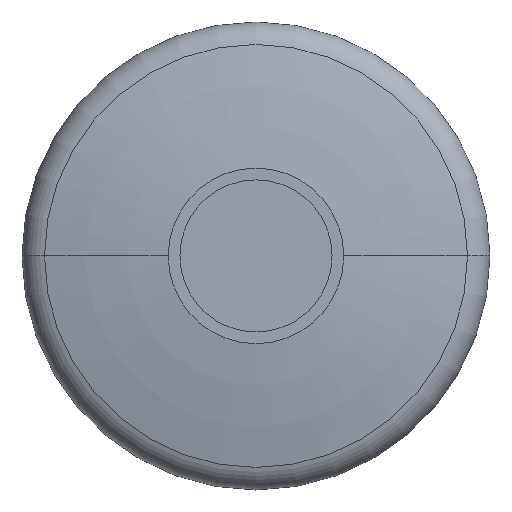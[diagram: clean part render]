
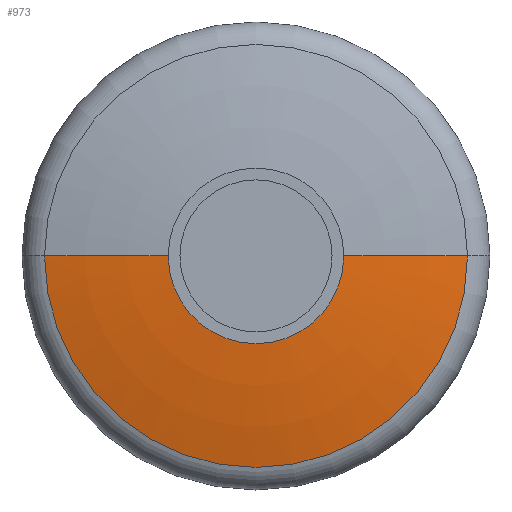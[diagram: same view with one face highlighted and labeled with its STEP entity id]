
A CAD part, top view. The second image highlights one B-rep face of the part: STEP entity #973.
In plain terms, the highlighted toroidal (fillet/blend) face has major radius 0.782 mm and minor radius 75 mm.
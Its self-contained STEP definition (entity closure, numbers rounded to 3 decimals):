
#82 = CARTESIAN_POINT ( 'NONE',  ( 0.782, 0., -43.496 ) ) ;
#102 = TOROIDAL_SURFACE ( 'NONE', #1483, 0.782, 75. ) ;
#114 = DIRECTION ( 'NONE',  ( -1., 0., 0. ) ) ;
#188 = CARTESIAN_POINT ( 'NONE',  ( 7.5, 0., 31.203 ) ) ;
#307 = CARTESIAN_POINT ( 'NONE',  ( 0., 0., 31.203 ) ) ;
#344 = DIRECTION ( 'NONE',  ( -1., 0., 0. ) ) ;
#525 = AXIS2_PLACEMENT_3D ( 'NONE', #307, #2209, #584 ) ;
#584 = DIRECTION ( 'NONE',  ( -1., 0., 0. ) ) ;
#601 = VERTEX_POINT ( 'NONE', #188 ) ;
#604 = CARTESIAN_POINT ( 'NONE',  ( 0., 0., 29.483 ) ) ;
#889 = DIRECTION ( 'NONE',  ( -1., 0., 0. ) ) ;
#973 = ADVANCED_FACE ( 'NONE', ( #1085 ), #102, .T. ) ;
#1073 = EDGE_CURVE ( 'NONE', #3140, #2960, #1382, .T. ) ;
#1085 = FACE_OUTER_BOUND ( 'NONE', #2676, .T. ) ;
#1157 = CARTESIAN_POINT ( 'NONE',  ( 0., 0., -43.496 ) ) ;
#1189 = ORIENTED_EDGE ( 'NONE', *, *, #2776, .F. ) ;
#1190 = ORIENTED_EDGE ( 'NONE', *, *, #2624, .F. ) ;
#1222 = DIRECTION ( 'NONE',  ( 0., -1., 0. ) ) ;
#1244 = AXIS2_PLACEMENT_3D ( 'NONE', #604, #2499, #889 ) ;
#1382 = CIRCLE ( 'NONE', #2212, 75. ) ;
#1483 = AXIS2_PLACEMENT_3D ( 'NONE', #1157, #1735, #114 ) ;
#1491 = VERTEX_POINT ( 'NONE', #2784 ) ;
#1735 = DIRECTION ( 'NONE',  ( 0., 0., -1. ) ) ;
#1837 = ORIENTED_EDGE ( 'NONE', *, *, #2734, .T. ) ;
#1966 = ORIENTED_EDGE ( 'NONE', *, *, #1073, .T. ) ;
#1975 = DIRECTION ( 'NONE',  ( 0., 1., 0. ) ) ;
#2151 = CIRCLE ( 'NONE', #525, 7.5 ) ;
#2209 = DIRECTION ( 'NONE',  ( 0., 0., 1. ) ) ;
#2212 = AXIS2_PLACEMENT_3D ( 'NONE', #2854, #1222, #3124 ) ;
#2351 = CIRCLE ( 'NONE', #2525, 75. ) ;
#2499 = DIRECTION ( 'NONE',  ( 0., 0., 1. ) ) ;
#2525 = AXIS2_PLACEMENT_3D ( 'NONE', #82, #1975, #344 ) ;
#2624 = EDGE_CURVE ( 'NONE', #3140, #601, #2151, .T. ) ;
#2676 = EDGE_LOOP ( 'NONE', ( #1189, #1190, #1966, #1837 ) ) ;
#2734 = EDGE_CURVE ( 'NONE', #2960, #1491, #2781, .T. ) ;
#2776 = EDGE_CURVE ( 'NONE', #601, #1491, #2351, .T. ) ;
#2781 = CIRCLE ( 'NONE', #1244, 18.076 ) ;
#2784 = CARTESIAN_POINT ( 'NONE',  ( 18.076, 0., 29.483 ) ) ;
#2854 = CARTESIAN_POINT ( 'NONE',  ( -0.782, 0., -43.496 ) ) ;
#2960 = VERTEX_POINT ( 'NONE', #3139 ) ;
#3101 = CARTESIAN_POINT ( 'NONE',  ( -7.5, 0., 31.203 ) ) ;
#3124 = DIRECTION ( 'NONE',  ( 0., 0., -1. ) ) ;
#3139 = CARTESIAN_POINT ( 'NONE',  ( -18.076, 0., 29.483 ) ) ;
#3140 = VERTEX_POINT ( 'NONE', #3101 ) ;
